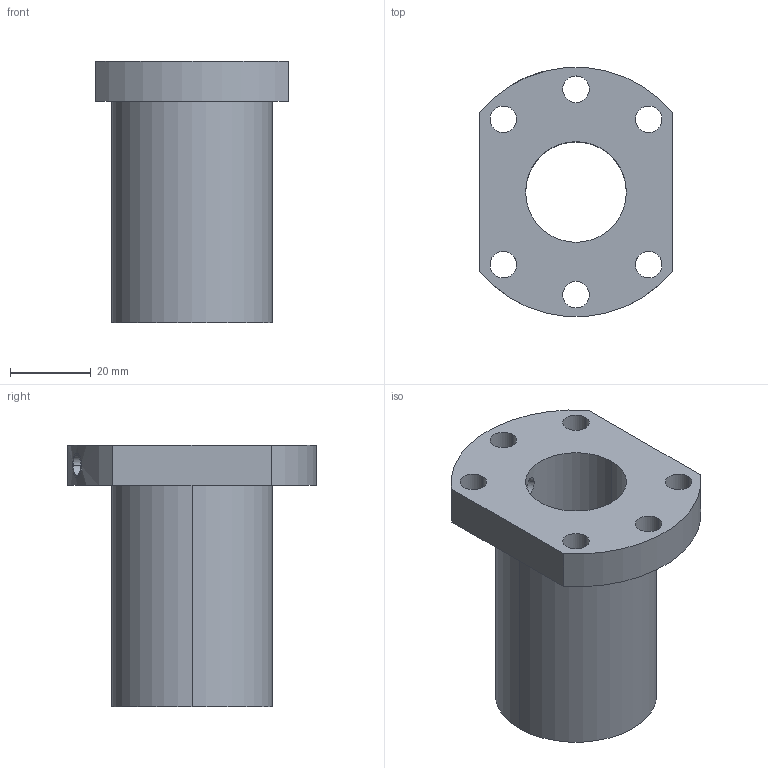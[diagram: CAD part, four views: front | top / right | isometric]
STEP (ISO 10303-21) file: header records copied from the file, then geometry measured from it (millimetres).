
FILE_DESCRIPTION((''),'2;1');
FILE_NAME('A10V8LA1','2018-09-04T',('wayne16941.lin'),(''),'PRO/ENGINEER BY PARAMETRIC TECHNOLOGY CORPORATION, 2012200','PRO/ENGINEER BY PARAMETRIC TECHNOLOGY CORPORATION, 2012200','');
FILE_SCHEMA(('CONFIG_CONTROL_DESIGN'));
Length unit declared in the file: millimetre
Products named in the file (1): A10V8LA1
Bounding box: 48 x 61.8 x 65 mm (x, y, z)
Volume: 61236.2 mm3; surface area: 19446.7 mm2
Topology: 1 solids, 2 shells, 32 faces, 84 edges, 56 vertices
Faces by surface type: cylinder 24, plane 6, cone 2
Entity records: 1164 total; most frequent: CARTESIAN_POINT 267, DIRECTION 186, ORIENTED_EDGE 162, EDGE_CURVE 84, AXIS2_PLACEMENT_3D 77, VERTEX_POINT 56, EDGE_LOOP 50, CIRCLE 44
